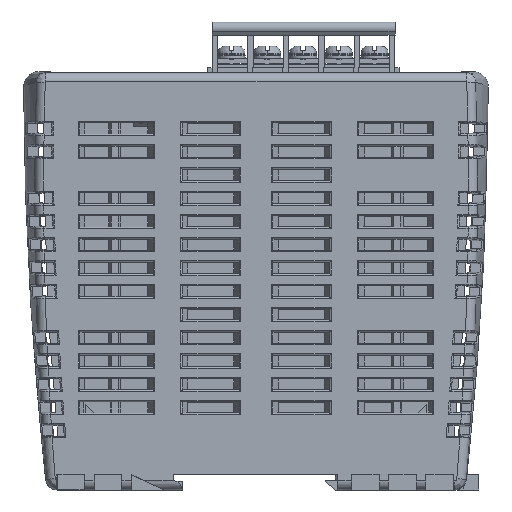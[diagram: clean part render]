
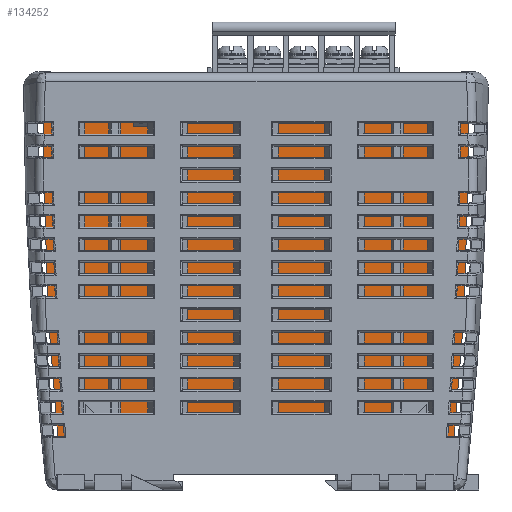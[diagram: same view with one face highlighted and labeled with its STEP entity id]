
A CAD part, left-side view. The second image highlights one B-rep face of the part: STEP entity #134252.
In plain terms, the highlighted planar face has unit normal (-1, 0, 0) as drawn and (0, 0, -1) by its records, which use the part's own axes.
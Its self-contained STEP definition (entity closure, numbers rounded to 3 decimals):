
#133689=CARTESIAN_POINT('',(37.3,-32.9,0.));
#133690=DIRECTION('',(0.,0.,1.));
#133691=DIRECTION('',(1.,0.,0.));
#133692=AXIS2_PLACEMENT_3D('',#133689,#133690,#133691);
#133697=CARTESIAN_POINT('',(37.3,-32.9,0.));
#133698=DIRECTION('',(0.,0.,1.));
#133699=DIRECTION('',(-1.,0.,0.));
#133700=AXIS2_PLACEMENT_3D('',#133697,#133698,#133699);
#133705=CARTESIAN_POINT('',(-37.3,-32.9,0.));
#133706=DIRECTION('',(0.,0.,-1.));
#133707=DIRECTION('',(-1.,0.,0.));
#133708=AXIS2_PLACEMENT_3D('',#133705,#133706,#133707);
#133713=CARTESIAN_POINT('',(-37.3,-32.9,0.));
#133714=DIRECTION('',(0.,0.,-1.));
#133715=DIRECTION('',(1.,0.,0.));
#133716=AXIS2_PLACEMENT_3D('',#133713,#133714,#133715);
#133721=DIRECTION('',(0.734,0.679,0.));
#133722=VECTOR('',#133721,1.472);
#133723=CARTESIAN_POINT('',(41.2,-38.,0.));
#133724=LINE('',#133723,#133722);
#133728=DIRECTION('',(0.08,0.997,0.));
#133729=VECTOR('',#133728,31.778);
#133730=CARTESIAN_POINT('',(42.28,-37.,0.));
#133731=LINE('',#133730,#133729);
#133735=DIRECTION('',(0.024,1.,0.));
#133736=VECTOR('',#133735,28.648);
#133737=CARTESIAN_POINT('',(44.829,-5.325,0.));
#133738=LINE('',#133737,#133736);
#133742=DIRECTION('',(0.021,1.,0.));
#133743=VECTOR('',#133742,14.656);
#133744=CARTESIAN_POINT('',(45.529,23.315,0.));
#133745=LINE('',#133744,#133743);
#133749=CARTESIAN_POINT('',(42.837,38.03,0.));
#133750=DIRECTION('',(0.,0.,-1.));
#133751=DIRECTION('',(0.,1.,0.));
#133752=AXIS2_PLACEMENT_3D('',#133749,#133750,#133751);
#133757=DIRECTION('',(-1.,0.,0.));
#133758=VECTOR('',#133757,0.837);
#133759=CARTESIAN_POINT('',(42.837,41.03,0.));
#133760=LINE('',#133759,#133758);
#133764=DIRECTION('',(0.,-1.,0.));
#133765=VECTOR('',#133764,1.6);
#133766=CARTESIAN_POINT('',(42.,42.63,0.));
#133767=LINE('',#133766,#133765);
#133771=DIRECTION('',(1.,0.,0.));
#133772=VECTOR('',#133771,84.);
#133773=CARTESIAN_POINT('',(-42.,42.63,0.));
#133774=LINE('',#133773,#133772);
#133778=DIRECTION('',(0.,-1.,0.));
#133779=VECTOR('',#133778,1.6);
#133780=CARTESIAN_POINT('',(-42.,42.63,0.));
#133781=LINE('',#133780,#133779);
#133785=DIRECTION('',(1.,0.,0.));
#133786=VECTOR('',#133785,0.837);
#133787=CARTESIAN_POINT('',(-42.837,41.03,0.));
#133788=LINE('',#133787,#133786);
#133792=CARTESIAN_POINT('',(-42.837,38.03,0.));
#133793=DIRECTION('',(0.,0.,-1.));
#133794=DIRECTION('',(-1.,-0.021,0.));
#133795=AXIS2_PLACEMENT_3D('',#133792,#133793,#133794);
#133800=DIRECTION('',(-0.021,1.,0.));
#133801=VECTOR('',#133800,14.656);
#133802=CARTESIAN_POINT('',(-45.529,23.315,0.));
#133803=LINE('',#133802,#133801);
#133807=DIRECTION('',(-0.024,1.,0.));
#133808=VECTOR('',#133807,28.648);
#133809=CARTESIAN_POINT('',(-44.829,-5.325,0.));
#133810=LINE('',#133809,#133808);
#133814=DIRECTION('',(-0.08,0.997,0.));
#133815=VECTOR('',#133814,31.778);
#133816=CARTESIAN_POINT('',(-42.28,-37.,0.));
#133817=LINE('',#133816,#133815);
#133821=DIRECTION('',(-0.734,0.679,0.));
#133822=VECTOR('',#133821,1.472);
#133823=CARTESIAN_POINT('',(-41.2,-38.,0.));
#133824=LINE('',#133823,#133822);
#134002=DIRECTION('',(-1.,0.,0.));
#134003=VECTOR('',#134002,82.4);
#134004=CARTESIAN_POINT('',(41.2,-38.,0.));
#134005=LINE('',#134004,#134003);
#134121=CARTESIAN_POINT('',(40.8,-32.9,0.));
#134122=CARTESIAN_POINT('',(33.8,-32.9,0.));
#134123=VERTEX_POINT('',#134121);
#134124=VERTEX_POINT('',#134122);
#134129=CARTESIAN_POINT('',(-40.8,-32.9,0.));
#134130=CARTESIAN_POINT('',(-33.8,-32.9,0.));
#134131=VERTEX_POINT('',#134129);
#134132=VERTEX_POINT('',#134130);
#134137=CARTESIAN_POINT('',(-42.,42.63,0.));
#134138=CARTESIAN_POINT('',(-42.,41.03,0.));
#134139=VERTEX_POINT('',#134137);
#134140=VERTEX_POINT('',#134138);
#134141=CARTESIAN_POINT('',(-44.829,-5.325,0.));
#134142=CARTESIAN_POINT('',(-45.529,23.315,0.));
#134143=VERTEX_POINT('',#134141);
#134144=VERTEX_POINT('',#134142);
#134153=CARTESIAN_POINT('',(42.,42.63,0.));
#134154=CARTESIAN_POINT('',(42.,41.03,0.));
#134155=VERTEX_POINT('',#134153);
#134156=VERTEX_POINT('',#134154);
#134157=CARTESIAN_POINT('',(44.829,-5.325,0.));
#134158=CARTESIAN_POINT('',(45.529,23.315,0.));
#134159=VERTEX_POINT('',#134157);
#134160=VERTEX_POINT('',#134158);
#134173=CARTESIAN_POINT('',(-45.836,37.967,0.));
#134174=VERTEX_POINT('',#134173);
#134175=CARTESIAN_POINT('',(-42.837,41.03,0.));
#134176=VERTEX_POINT('',#134175);
#134177=CARTESIAN_POINT('',(42.837,41.03,0.));
#134178=CARTESIAN_POINT('',(45.836,37.967,0.));
#134179=VERTEX_POINT('',#134177);
#134180=VERTEX_POINT('',#134178);
#134185=CARTESIAN_POINT('',(-41.2,-38.,0.));
#134186=CARTESIAN_POINT('',(-42.28,-37.,0.));
#134187=VERTEX_POINT('',#134185);
#134188=VERTEX_POINT('',#134186);
#134193=CARTESIAN_POINT('',(41.2,-38.,0.));
#134194=CARTESIAN_POINT('',(42.28,-37.,0.));
#134195=VERTEX_POINT('',#134193);
#134196=VERTEX_POINT('',#134194);
#134201=CARTESIAN_POINT('',(0.,0.,0.));
#134202=DIRECTION('',(0.,0.,1.));
#134203=DIRECTION('',(1.,0.,0.));
#134204=AXIS2_PLACEMENT_3D('',#134201,#134202,#134203);
#134205=PLANE('',#134204);
#134207=ORIENTED_EDGE('',*,*,#134206,.T.);
#134209=ORIENTED_EDGE('',*,*,#134208,.T.);
#134211=ORIENTED_EDGE('',*,*,#134210,.T.);
#134213=ORIENTED_EDGE('',*,*,#134212,.T.);
#134215=ORIENTED_EDGE('',*,*,#134214,.F.);
#134217=ORIENTED_EDGE('',*,*,#134216,.T.);
#134219=ORIENTED_EDGE('',*,*,#134218,.F.);
#134221=ORIENTED_EDGE('',*,*,#134220,.F.);
#134223=ORIENTED_EDGE('',*,*,#134222,.T.);
#134225=ORIENTED_EDGE('',*,*,#134224,.F.);
#134227=ORIENTED_EDGE('',*,*,#134226,.F.);
#134229=ORIENTED_EDGE('',*,*,#134228,.F.);
#134231=ORIENTED_EDGE('',*,*,#134230,.F.);
#134233=ORIENTED_EDGE('',*,*,#134232,.F.);
#134235=ORIENTED_EDGE('',*,*,#134234,.F.);
#134237=ORIENTED_EDGE('',*,*,#134236,.F.);
#134238=EDGE_LOOP('',(#134207,#134209,#134211,#134213,#134215,#134217,#134219,
#134221,#134223,#134225,#134227,#134229,#134231,#134233,#134235,#134237));
#134239=FACE_OUTER_BOUND('',#134238,.F.);
#134241=ORIENTED_EDGE('',*,*,#134240,.T.);
#134243=ORIENTED_EDGE('',*,*,#134242,.T.);
#134244=EDGE_LOOP('',(#134241,#134243));
#134245=FACE_BOUND('',#134244,.F.);
#134247=ORIENTED_EDGE('',*,*,#134246,.F.);
#134249=ORIENTED_EDGE('',*,*,#134248,.F.);
#134250=EDGE_LOOP('',(#134247,#134249));
#134251=FACE_BOUND('',#134250,.F.);
#133693=CIRCLE('',#133692,3.5);
#133701=CIRCLE('',#133700,3.5);
#133709=CIRCLE('',#133708,3.5);
#133717=CIRCLE('',#133716,3.5);
#133753=CIRCLE('',#133752,3.);
#133796=CIRCLE('',#133795,3.);
#134206=EDGE_CURVE('',#134195,#134196,#133724,.T.);
#134208=EDGE_CURVE('',#134196,#134159,#133731,.T.);
#134210=EDGE_CURVE('',#134159,#134160,#133738,.T.);
#134212=EDGE_CURVE('',#134160,#134180,#133745,.T.);
#134214=EDGE_CURVE('',#134179,#134180,#133753,.T.);
#134216=EDGE_CURVE('',#134179,#134156,#133760,.T.);
#134218=EDGE_CURVE('',#134155,#134156,#133767,.T.);
#134220=EDGE_CURVE('',#134139,#134155,#133774,.T.);
#134222=EDGE_CURVE('',#134139,#134140,#133781,.T.);
#134224=EDGE_CURVE('',#134176,#134140,#133788,.T.);
#134226=EDGE_CURVE('',#134174,#134176,#133796,.T.);
#134228=EDGE_CURVE('',#134144,#134174,#133803,.T.);
#134230=EDGE_CURVE('',#134143,#134144,#133810,.T.);
#134232=EDGE_CURVE('',#134188,#134143,#133817,.T.);
#134234=EDGE_CURVE('',#134187,#134188,#133824,.T.);
#134236=EDGE_CURVE('',#134195,#134187,#134005,.T.);
#134240=EDGE_CURVE('',#134131,#134132,#133709,.T.);
#134242=EDGE_CURVE('',#134132,#134131,#133717,.T.);
#134246=EDGE_CURVE('',#134123,#134124,#133693,.T.);
#134248=EDGE_CURVE('',#134124,#134123,#133701,.T.);
#134252=ADVANCED_FACE('',(#134239,#134245,#134251),#134205,.F.);
